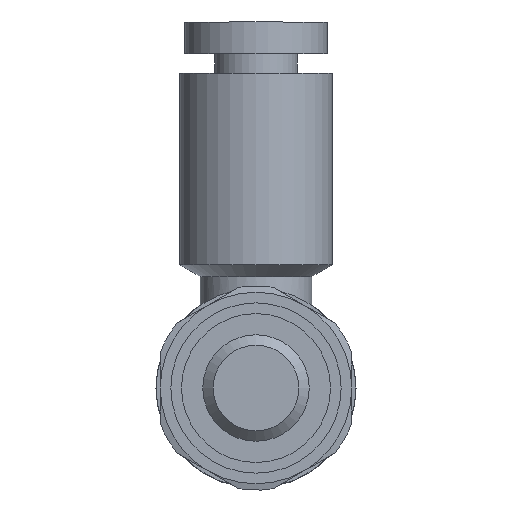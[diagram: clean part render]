
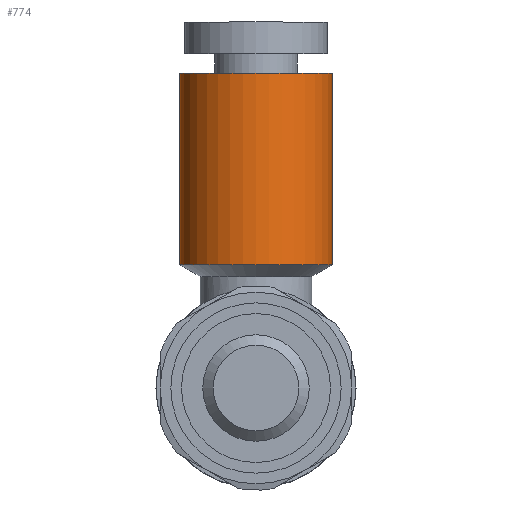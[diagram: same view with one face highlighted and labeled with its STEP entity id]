
A CAD part, front view. The second image highlights one B-rep face of the part: STEP entity #774.
In plain terms, the highlighted cylindrical face has radius 3.6 mm (diameter 7.2 mm), a full revolution.
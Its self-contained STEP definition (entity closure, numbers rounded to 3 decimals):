
#303=ORIENTED_EDGE('',*,*,#404,.F.);
#304=ORIENTED_EDGE('',*,*,#403,.T.);
#403=EDGE_CURVE('',#475,#475,#528,.T.);
#404=EDGE_CURVE('',#476,#476,#529,.T.);
#475=VERTEX_POINT('',#1444);
#476=VERTEX_POINT('',#1447);
#528=CIRCLE('',#893,3.6);
#529=CIRCLE('',#895,3.6);
#610=EDGE_LOOP('',(#303));
#611=EDGE_LOOP('',(#304));
#696=FACE_BOUND('',#610,.T.);
#697=FACE_BOUND('',#611,.T.);
#720=CYLINDRICAL_SURFACE('',#894,3.6);
#774=ADVANCED_FACE('',(#696,#697),#720,.T.);
#893=AXIS2_PLACEMENT_3D('',#1443,#1124,#1125);
#894=AXIS2_PLACEMENT_3D('',#1445,#1126,#1127);
#895=AXIS2_PLACEMENT_3D('',#1446,#1128,#1129);
#1124=DIRECTION('',(0.,0.,-1.));
#1125=DIRECTION('',(0.,1.,0.));
#1126=DIRECTION('',(0.,0.,-1.));
#1127=DIRECTION('',(0.,1.,0.));
#1128=DIRECTION('',(0.,0.,-1.));
#1129=DIRECTION('',(0.,1.,0.));
#1443=CARTESIAN_POINT('',(0.,13.9,14.8));
#1444=CARTESIAN_POINT('',(0.,17.5,14.8));
#1445=CARTESIAN_POINT('',(0.,13.9,0.));
#1446=CARTESIAN_POINT('',(0.,13.9,5.8));
#1447=CARTESIAN_POINT('',(0.,17.5,5.8));
